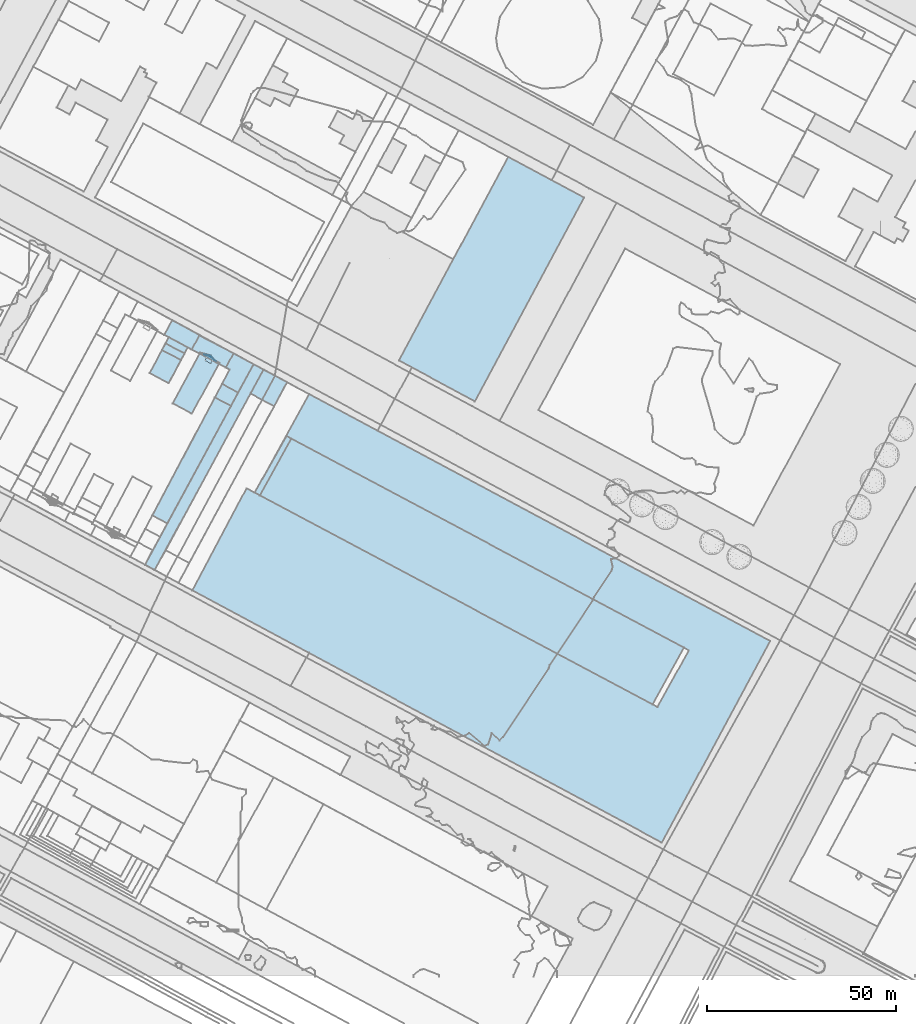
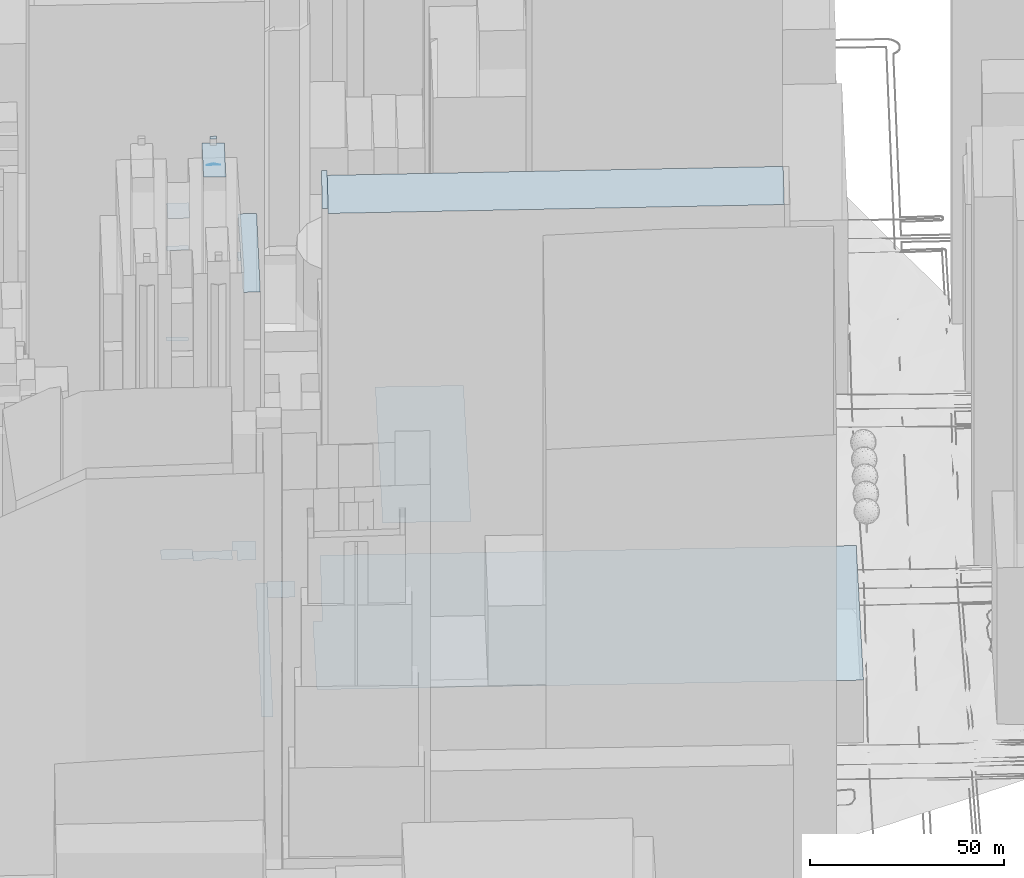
# Not in any storey, part 35 of 76: 17 roofs.
"""IFC2X3 model written with IfcOpenShell, lengths in metres."""

from ifc_helpers import new_model, si_unit, frame, origin_with_axes, place, context, subcontext, project, faceted_brep, element, save


model = new_model("IFC2X3")

# Units and contexts
model_context = context("Model", 3, precision=1e-05, world=origin_with_axes())
body_context = subcontext(model_context, "Body", "Model", "MODEL_VIEW")
ifc_project = project(units=[si_unit("AREAUNIT", "SQUARE_METRE"), si_unit("LENGTHUNIT", "METRE")], contexts=[model_context])

# Roofs
roof_1_placement = place(None, frame((145.8163168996, 126.9152581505, 39.4739662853), z_axis=(0.0, 0.0, 1.0), x_axis=(1.0, 0.0, 0.0)))
element("IfcRoof", 1, at=roof_1_placement, Name="Toiture 0", ShapeType="NOTDEFINED", context=body_context, shape_type="Brep", body=[
    faceted_brep([(8.3262633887, 15.0070838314, 128.0), (0.0, 0.0, 128.0), (103.867286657, -55.3249895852, 128.0), (112.1849689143, -40.3178861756, 128.0)], [[[0, 1, 2]], [[2, 3, 0]]]),
])
roof_2_placement = place(None, frame((127.9503385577, 101.7942196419, 19.0609188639), z_axis=(0.0, 0.0, 1.0), x_axis=(1.0, 0.0, 0.0)))
element("IfcRoof", 2, at=roof_2_placement, Name="Toiture 0", ShapeType="NOTDEFINED", context=body_context, shape_type="Brep", body=[
    faceted_brep([(14.3495804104, 26.9786628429, 20.0), (0.0, 0.0, 20.0), (124.2012870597, -66.7460663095, 20.0), (152.8564476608, -13.4215566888, 20.0), (30.9179421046, 51.8848183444, 20.0), (16.4988125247, 25.8156958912, 20.0)], [[[0, 1, 2]], [[2, 3, 4]], [[5, 0, 2]], [[2, 4, 5]]]),
])
roof_3_placement = place(None, frame((182.6039745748, 162.5591833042, 20.6927717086), z_axis=(0.0, 0.0, 1.0), x_axis=(1.0, 0.0, 0.0)))
element("IfcRoof", 3, at=roof_3_placement, Name="Toiture 0", ShapeType="NOTDEFINED", context=body_context, shape_type="Brep", body=[
    faceted_brep([(28.9020091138, 53.8711326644, 14.8999996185), (0.0, 0.0, 14.8999996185), (20.0810169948, -10.7688576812, 14.8999996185), (48.9829273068, 43.1023540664, 14.8999996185)], [[[0, 1, 2]], [[2, 3, 0]]]),
])
roof_4_placement = place(None, frame((144.4491510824, 127.6099155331, 41.0408020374), z_axis=(0.0, 0.0, 1.0), x_axis=(1.0, 0.0, 0.0)))
element("IfcRoof", 4, at=roof_4_placement, Name="Toiture 0", ShapeType="NOTDEFINED", context=body_context, shape_type="Brep", body=[
    faceted_brep([(8.4192388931, 14.9970605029, 128.0), (0.0, 0.0, 128.0), (1.3671658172, -0.6946573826, 128.0), (9.6934292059, 14.3124264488, 128.0)], [[[0, 1, 2]], [[2, 3, 0]]]),
])
roof_5_placement = place(None, frame((117.3791727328, 121.6110559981, 20.8267398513), z_axis=(0.0, 0.0, 1.0), x_axis=(1.0, 0.0, 0.0)))
element("IfcRoof", 5, at=roof_5_placement, Name="Toiture 0", ShapeType="NOTDEFINED", context=body_context, shape_type="Brep", body=[
    faceted_brep([(16.537532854, 31.2007155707, 135.0), (0.0, 0.0, 135.0), (3.9330714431, -2.1192496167, 135.0), (20.7848229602, 28.9185921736, 135.0)], [[[0, 1, 2]], [[2, 3, 0]]]),
])
roof_6_placement = place(None, frame((115.4207049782, 108.532058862, 20.6954997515), z_axis=(0.0, 0.0, 1.0), x_axis=(1.0, 0.0, 0.0)))
element("IfcRoof", 6, at=roof_6_placement, Name="Toiture 0", ShapeType="NOTDEFINED", context=body_context, shape_type="Brep", body=[
    faceted_brep([(28.7687753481, 53.0477319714, 10.0), (0.0, 0.0, 10.0), (2.5572123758, -1.4024849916, 10.0), (31.3771339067, 51.6014424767, 10.0)], [[[0, 1, 2]], [[2, 3, 0]]]),
])
roof_7_placement = place(None, frame((116.6721914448, 159.2172708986, 141.4782063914), z_axis=(0.0, 0.0, 1.0), x_axis=(1.0, 0.0, 0.0)))
element("IfcRoof", 7, at=roof_7_placement, Name="Toiture 0", ShapeType="NOTDEFINED", context=body_context, shape_type="Brep", body=[
    faceted_brep([(3.2380972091, 6.1105477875, 15.0), (0.0, 0.0, 15.0), (5.0281825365, -2.6505379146, 15.0), (8.2745883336, 3.4712109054, 15.0)], [[[0, 1, 2]], [[2, 3, 0]]]),
])
roof_8_placement = place(None, frame((119.9102886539, 165.3278186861, 111.6038647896), z_axis=(0.0, 0.0, 1.0), x_axis=(1.0, 0.0, 0.0)))
element("IfcRoof", 8, at=roof_8_placement, Name="Toiture 0", ShapeType="NOTDEFINED", context=body_context, shape_type="Brep", body=[
    faceted_brep([(0.9333889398, 1.7649989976, 30.0), (0.0, 0.0, 30.0), (5.0364911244, -2.6393368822, 30.0), (5.9698792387, -0.874337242, 30.0)], [[[0, 1, 2]], [[2, 3, 0]]]),
])
roof_9_placement = place(None, frame((120.8436775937, 167.0928176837, 21.6386341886), z_axis=(0.0, 0.0, 1.0), x_axis=(1.0, 0.0, 0.0)))
element("IfcRoof", 9, at=roof_9_placement, Name="Toiture 0", ShapeType="NOTDEFINED", context=body_context, shape_type="Brep", body=[
    faceted_brep([(0.8757243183, 1.6422044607, 90.0), (0.0, 0.0, 90.0), (5.0364902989, -2.6393362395, 90.0), (5.8792260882, -1.0641279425, 90.0)], [[[0, 1, 2]], [[2, 3, 0]]]),
])
roof_10_placement = place(None, frame((120.5302679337, 169.3651384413, 21.6421787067), z_axis=(0.0, 0.0, 1.0), x_axis=(1.0, 0.0, 0.0)))
element("IfcRoof", 10, at=roof_10_placement, Name="Toiture 0", ShapeType="NOTDEFINED", context=body_context, shape_type="Brep", body=[
    faceted_brep([(2.1162476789, 3.8548618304, 20.0), (0.0, 0.0, 20.0), (7.2712718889, -3.9012342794, 20.0), (9.3368747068, -0.0469587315, 20.0)], [[[0, 1, 2]], [[2, 3, 0]]]),
])
roof_11_placement = place(None, frame((127.8015398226, 165.4639041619, 21.0444509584), z_axis=(0.0, 0.0, 1.0), x_axis=(1.0, 0.0, 0.0)))
element("IfcRoof", 11, at=roof_11_placement, Name="Toiture 0", ShapeType="NOTDEFINED", context=body_context, shape_type="Brep", body=[
    faceted_brep([(2.0078098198, 3.7425815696, 20.0), (0.0, 0.0, 20.0), (2.0724819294, -1.0972490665, 20.0), (5.12513906, -1.5502808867, 20.0), (7.1770165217, -3.7801977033, 20.0), (9.0200620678, -4.746883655, 20.0), (11.0616303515, -1.0039073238, 20.0), (2.2459900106, -0.7732678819, 20.0)], [[[0, 1, 2]], [[3, 4, 5]], [[5, 6, 0]], [[0, 2, 7]], [[3, 5, 0]], [[0, 7, 3]]]),
])
roof_12_placement = place(None, frame((130.8715359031, 164.2450175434, 41.2941403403), z_axis=(0.0, 0.0, 1.0), x_axis=(1.0, 0.0, 0.0)))
element("IfcRoof", 12, at=roof_12_placement, Name="Toiture 0", ShapeType="NOTDEFINED", context=body_context, shape_type="Brep", body=[
    faceted_brep([(2.0551429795, -0.3313942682, 124.0), (0.0, 0.0, 124.0), (0.9598263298, -0.5106541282, 124.0), (3.4234050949, -1.8476075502, 124.0)], [[[0, 1, 2]], [[2, 3, 0]]]),
])
roof_13_placement = place(None, frame((131.2446046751, 162.6506276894, 172.3367242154), z_axis=(0.0, 0.0, 1.0), x_axis=(1.0, 0.0, 0.0)))
element("IfcRoof", 13, at=roof_13_placement, Name="Toiture 0", ShapeType="NOTDEFINED", context=body_context, shape_type="Brep", body=[
    faceted_brep([(0.5867575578, 1.0837357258, 2.0), (0.0, 0.0, 2.0), (1.5290734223, -0.8260055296, 2.0), (2.1158308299, 0.2577303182, 2.0)], [[[0, 1, 2]], [[2, 3, 0]]]),
])
roof_14_placement = place(None, frame((122.7499311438, 151.2387428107, 21.2252541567), z_axis=(0.0, 0.0, 1.0), x_axis=(1.0, 0.0, 0.0)))
element("IfcRoof", 14, at=roof_14_placement, Name="Toiture 0", ShapeType="NOTDEFINED", context=body_context, shape_type="Brep", body=[
    faceted_brep([(7.2975986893, 13.4518934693, 151.0), (0.0, 0.0, 151.0), (5.0798643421, -2.738751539, 151.0), (12.3774568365, 10.713146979, 151.0)], [[[0, 1, 2]], [[2, 3, 0]]]),
])
roof_15_placement = place(None, frame((133.9167055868, 152.8117715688, 20.9084652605), z_axis=(0.0, 0.0, 1.0), x_axis=(1.0, 0.0, 0.0)))
element("IfcRoof", 15, at=roof_15_placement, Name="Toiture 0", ShapeType="NOTDEFINED", context=body_context, shape_type="Brep", body=[
    faceted_brep([(1.8917085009, 3.563598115, 120.0), (0.0, 0.0, 120.0), (4.2472901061, -2.2821233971, 120.0), (6.1475666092, 1.270473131, 120.0)], [[[0, 1, 2]], [[2, 3, 0]]]),
])
roof_16_placement = place(None, frame((135.8084140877, 156.3753696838, 20.9336598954), z_axis=(0.0, 0.0, 1.0), x_axis=(1.0, 0.0, 0.0)))
element("IfcRoof", 16, at=roof_16_placement, Name="Toiture 0", ShapeType="NOTDEFINED", context=body_context, shape_type="Brep", body=[
    faceted_brep([(2.0239153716, 3.8093843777, 23.0), (0.0, 0.0, 23.0), (4.2558581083, -2.293124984, 23.0), (8.3810662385, 5.2044211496, 23.0), (3.0547560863, 8.0846271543, 23.0), (1.0131878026, 4.3416508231, 23.0)], [[[0, 1, 2]], [[2, 3, 4]], [[4, 5, 0]], [[0, 2, 4]]]),
])
roof_17_placement = place(None, frame((143.3426323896, 153.8205779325, 29.1035144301), z_axis=(0.0, 0.0, 1.0), x_axis=(1.0, 0.0, 0.0)))
element("IfcRoof", 17, at=roof_17_placement, Name="Toiture 0", ShapeType="NOTDEFINED", context=body_context, shape_type="Brep", body=[
    faceted_brep([(3.4552064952, 6.3129234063, 2.0), (0.0, 0.0, 2.0), (6.235119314, -3.3581409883, 2.0), (9.6477332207, 2.9875971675, 2.0)], [[[0, 1, 2]], [[2, 3, 0]]]),
])

save(model, "model.ifc")
